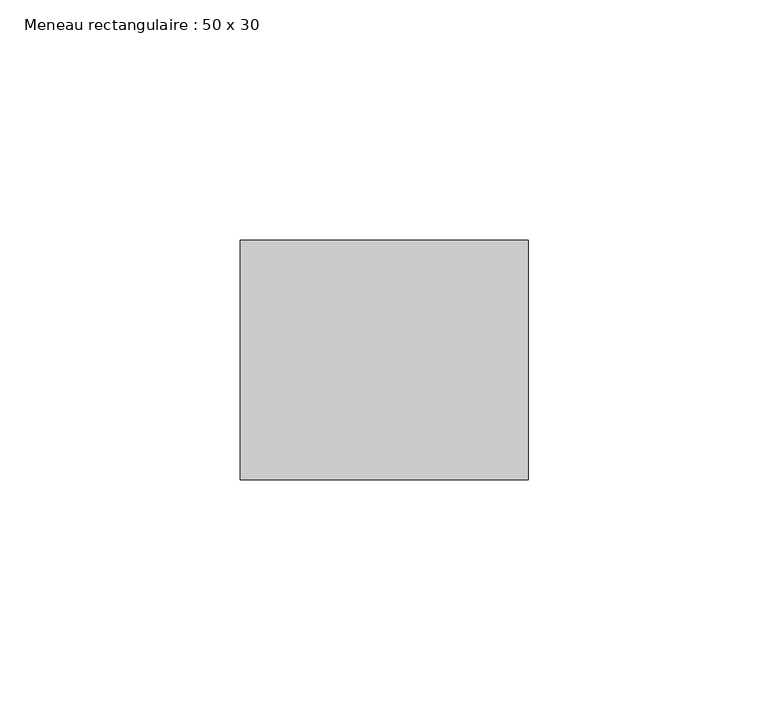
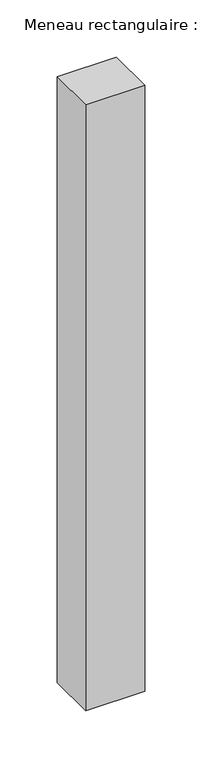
"""IFC4 building model written with IfcOpenShell, lengths in millimetres: member geometry, Meneau rectangulaire : 50 x 30."""

import ifcopenshell
import ifcopenshell.guid

model = None  # the IFC model being written
_history = None  # IfcOwnerHistory: only IFC2X3 demands one
_inside = {}  # id of a spatial element -> (the spatial element, [elements in it])
_under = {}  # id of a project, library or spatial element -> (it, [spatial elements below it])
_declared = {}  # id of a project -> (the project, [libraries it declares])
_typed = {}  # id of a type object -> (the type object, [elements of that type])
_made_of = {}  # id of a material, layer set ... -> (it, [elements and type objects made of it])


def new_model(schema):
    """Start an empty IFC model of exactly this schema.

    Asked for "IFC4X3", IfcOpenShell would pick the latest addendum, in which some entities
    have other attributes; the version numbers below select the first issue.
    IFC2X3 requires an IfcOwnerHistory on every rooted entity: one is made here for all.
    """
    global model, _history
    if schema == "IFC4X3":
        model = ifcopenshell.file(schema_version=(4, 3, 0, 0))
    else:
        model = ifcopenshell.file(schema=schema)
    _inside.clear()
    _under.clear()
    _declared.clear()
    _typed.clear()
    _made_of.clear()
    _history = None
    if model.schema == "IFC2X3":
        org = make("IfcOrganization", Name="unknown")
        user = make(
            "IfcPersonAndOrganization",
            ThePerson=make("IfcPerson", FamilyName="unknown"),
            TheOrganization=org,
        )
        app = make(
            "IfcApplication",
            ApplicationDeveloper=org,
            Version="unknown",
            ApplicationFullName="unknown",
            ApplicationIdentifier="unknown",
        )
        _history = make(
            "IfcOwnerHistory",
            OwningUser=user,
            OwningApplication=app,
            ChangeAction="ADDED",
            CreationDate=0,
        )
    return model


def make(cls, **values):
    """One entity of the class cls with the attributes given. An attribute that is None is left unset."""
    return model.create_entity(
        cls, **{name: value for name, value in values.items() if value is not None}
    )


def rooted(cls, **values):
    """An entity with a GlobalId (a new one), such as an element, a storey or a relation."""
    return make(cls, GlobalId=ifcopenshell.guid.new(), OwnerHistory=_history, **values)


def si_unit(unit_type, name, prefix=None):
    """IfcSIUnit, for example si_unit("LENGTHUNIT", "METRE", prefix="MILLI")."""
    return make("IfcSIUnit", UnitType=unit_type, Prefix=prefix, Name=name)


def assignment(units):
    """IfcUnitAssignment: the units of a project."""
    return None if units is None else make("IfcUnitAssignment", Units=units)


def point(xyz):
    """IfcCartesianPoint."""
    return None if xyz is None else make("IfcCartesianPoint", Coordinates=xyz)


def direction(xyz):
    """IfcDirection."""
    return None if xyz is None else make("IfcDirection", DirectionRatios=xyz)


def frame(location, z_axis=None, x_axis=None):
    """IfcAxis2Placement3D, a coordinate frame: its origin and axes. An axis left out is left unset."""
    return make(
        "IfcAxis2Placement3D",
        Location=point(location),
        Axis=direction(z_axis),
        RefDirection=direction(x_axis),
    )


def origin():
    """The frame at (0, 0, 0) with its axes left unset."""
    return frame((0.0, 0.0, 0.0))


def place(relative_to, where):
    """IfcLocalPlacement: puts the frame where relative to a parent placement (None: the world)."""
    return make(
        "IfcLocalPlacement", PlacementRelTo=relative_to, RelativePlacement=where
    )


def context(
    kind, dimensions, precision=None, world=None, true_north=None, identifier=None
):
    """IfcGeometricRepresentationContext, for example the 3D "Model" context."""
    return make(
        "IfcGeometricRepresentationContext",
        ContextIdentifier=identifier,
        ContextType=kind,
        CoordinateSpaceDimension=dimensions,
        Precision=precision,
        WorldCoordinateSystem=world,
        TrueNorth=true_north,
    )


def project(units=None, contexts=None):
    """IfcProject with its units and contexts."""
    return rooted(
        "IfcProject",
        Name="project",
        RepresentationContexts=contexts,
        UnitsInContext=assignment(units),
    )


def spatial(cls, under=None, at=None, **own):
    """A site, building, storey or space (cls), placed at a placement, below another one or the project."""
    s = rooted(cls, ObjectPlacement=at, **own)
    if under is not None:
        _under.setdefault(under.id(), (under, []))[1].append(s)
    return s


def polyline(points):
    """IfcPolyline through the points."""
    return make("IfcPolyline", Points=[point(p) for p in points])


def outline(outer, holes=None, kind="AREA"):
    """IfcArbitraryClosedProfileDef: a profile drawn as a closed curve; with holes, ...WithVoids."""
    if holes is None:
        return make("IfcArbitraryClosedProfileDef", ProfileType=kind, OuterCurve=outer)
    return make(
        "IfcArbitraryProfileDefWithVoids",
        ProfileType=kind,
        OuterCurve=outer,
        InnerCurves=holes,
    )


def extrude(swept, where, along, depth):
    """IfcExtrudedAreaSolid: the profile swept, set in the frame where, extruded along a direction by depth."""
    return make(
        "IfcExtrudedAreaSolid",
        SweptArea=swept,
        Position=where,
        ExtrudedDirection=direction(along),
        Depth=depth,
    )


def shape(context_of_items, identifier, shape_type, items):
    """IfcShapeRepresentation: the items that make up one representation, for example the "Body"."""
    return make(
        "IfcShapeRepresentation",
        ContextOfItems=context_of_items,
        RepresentationIdentifier=identifier,
        RepresentationType=shape_type,
        Items=items,
    )


def source(mapping_origin, context_of_items, identifier, shape_type, items):
    """IfcRepresentationMap: a shape defined once, which mapped items show again and again."""
    return make(
        "IfcRepresentationMap",
        MappingOrigin=mapping_origin,
        MappedRepresentation=shape(context_of_items, identifier, shape_type, items),
    )


def transform(
    local_origin,
    x_axis=None,
    y_axis=None,
    z_axis=None,
    scale=None,
    scale2=None,
    scale3=None,
    uniform=True,
):
    """IfcCartesianTransformationOperator3D, or its non-uniform kind. x_axis, y_axis, z_axis: its Axis1, 2, 3."""
    if uniform:
        return make(
            "IfcCartesianTransformationOperator3D",
            Axis1=direction(x_axis),
            Axis2=direction(y_axis),
            LocalOrigin=point(local_origin),
            Scale=scale,
            Axis3=direction(z_axis),
        )
    return make(
        "IfcCartesianTransformationOperator3DnonUniform",
        Axis1=direction(x_axis),
        Axis2=direction(y_axis),
        LocalOrigin=point(local_origin),
        Scale=scale,
        Axis3=direction(z_axis),
        Scale2=scale2,
        Scale3=scale3,
    )


def mapped(mapping_source, mapping_target):
    """IfcMappedItem: shows the shape of a source again, moved by a transform."""
    return make(
        "IfcMappedItem", MappingSource=mapping_source, MappingTarget=mapping_target
    )


def made_of(thing, what):
    """Note that an element or type object is made of a material, layer set ...; save() writes the relation."""
    if what is not None:
        _made_of.setdefault(what.id(), (what, []))[1].append(thing)
    return thing


def element(
    cls,
    number,
    at=None,
    inside=None,
    cuts=None,
    type_object=None,
    material=None,
    context=None,
    identifier="Body",
    shape_type=None,
    held_by="IfcProductDefinitionShape",
    body=None,
    shapes=None,
    **own,
):
    """One element of the class cls, such as IfcWall. Its Tag is "e" and its number.

    at: its placement. inside: the storey or other place that contains it. cuts: it is an
    opening in that element (IfcRelVoidsElement). A single representation is given by context,
    identifier, shape_type and body (its items); several are given by shapes. held_by: the class
    of the entity that holds the representations. save() writes the other relations.
    """
    e = rooted(cls, Tag="e%d" % number, ObjectPlacement=at, **own)
    if body is not None:
        shapes = [shape(context, identifier, shape_type, body)]
    if shapes is not None:
        e.Representation = make(held_by, Representations=shapes)
    if inside is not None:
        _inside.setdefault(inside.id(), (inside, []))[1].append(e)
    if cuts is not None:
        rooted(
            "IfcRelVoidsElement", RelatingBuildingElement=cuts, RelatedOpeningElement=e
        )
    if type_object is not None:
        _typed.setdefault(type_object.id(), (type_object, []))[1].append(e)
    return made_of(e, material)


def aggregate(whole, parts):
    """IfcRelAggregates: a whole, such as a stair, and the parts it consists of."""
    return rooted("IfcRelAggregates", RelatingObject=whole, RelatedObjects=parts)


def save(model, path):
    """Write the relations noted so far, then the file.

    IfcRelAggregates (storeys below a building ...), IfcRelContainedInSpatialStructure (elements
    in a storey), IfcRelDefinesByType, IfcRelAssociatesMaterial and IfcRelDeclares: one each for
    every whole, place, type object, material and project.
    """
    for whole, parts in _under.values():
        aggregate(whole, parts)
    for where, things in _inside.values():
        rooted(
            "IfcRelContainedInSpatialStructure",
            RelatedElements=things,
            RelatingStructure=where,
        )
    for kind, things in _typed.values():
        rooted("IfcRelDefinesByType", RelatedObjects=things, RelatingType=kind)
    for what, things in _made_of.values():
        rooted("IfcRelAssociatesMaterial", RelatedObjects=things, RelatingMaterial=what)
    for by, libraries in _declared.values():
        rooted("IfcRelDeclares", RelatingContext=by, RelatedDefinitions=libraries)
    model.write(path)


def meneau_rectangulaire_50_x_30_f25296c7(model_context):
    return source(origin(), model_context, "Body", "SweptSolid", [
        extrude(outline(polyline([(30.0, 0.0), (30.0, -50.0), (-30.0, -50.0), (-30.0, 0.0), (30.0, 0.0)])), frame((0.0, 0.0, -649.0), z_axis=(0.0, 0.0, 1.0), x_axis=(1.0, 0.0, 0.0)), (0.0, 0.0, 1.0), 649.0),
    ])


if __name__ == "__main__":
    model = new_model("IFC4")
    model_context = context("Model", 3, world=origin())
    ifc_project = project(units=[si_unit("LENGTHUNIT", "METRE", prefix="MILLI")], contexts=[model_context])
    site = spatial("IfcSite", under=ifc_project)
    building = spatial("IfcBuilding", under=site)
    placement = place(None, origin())
    meneau_rectangulaire_50_x_30_shape = meneau_rectangulaire_50_x_30_f25296c7(model_context)
    element("IfcMember", 1, ObjectType="Meneau rectangulaire : 50 x 30", at=placement, inside=building, context=model_context, shape_type="MappedRepresentation", body=[
        mapped(meneau_rectangulaire_50_x_30_shape, transform((0.0, 0.0, 0.0), x_axis=(1.0, 0.0, 0.0), y_axis=(0.0, 1.0, 0.0), z_axis=(0.0, 0.0, 1.0))),
    ])
    save(model, "model.ifc")
